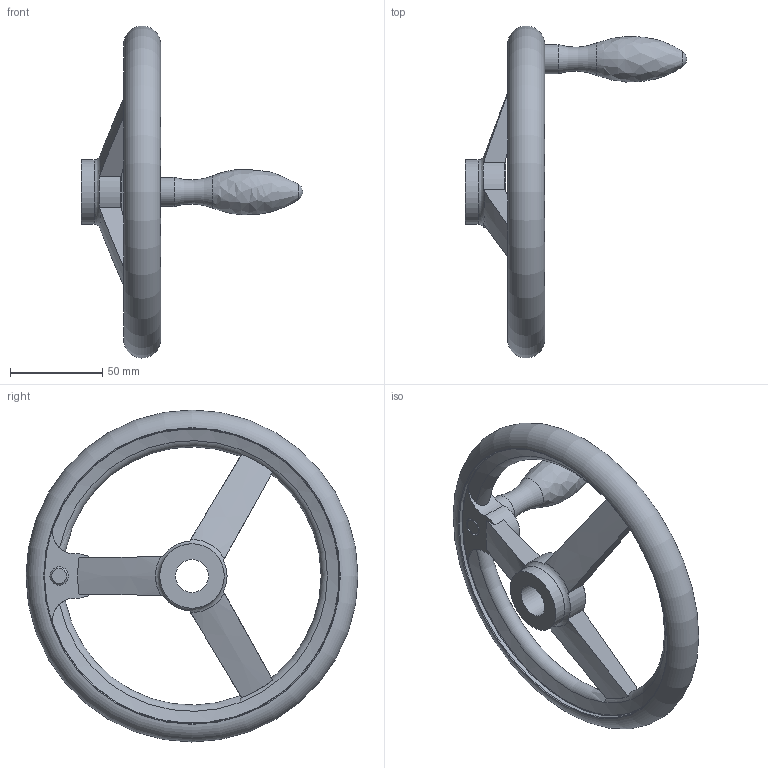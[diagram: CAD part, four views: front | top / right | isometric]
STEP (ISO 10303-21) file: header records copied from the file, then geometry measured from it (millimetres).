
FILE_DESCRIPTION( ( 'STEP AP203' ), '1' );
FILE_NAME( 'C:/Temp/Ganter_Step_05_03_2020/data/1_3/din_950/din_950_b/din_950_b_f/Handwheel DIN 950-GG-180-B18-F.stp', '2020-03-05T10:30:12', ( 'License CC BY-ND 4.0' ), ( 'CADENAS' ), ' ', 'PARTsolutions', ' ' );
FILE_SCHEMA( ( 'CONFIG_CONTROL_DESIGN' ) );
Length unit declared in the file: millimetre
Products named in the file (1): _Handwheel DIN 950-GG-180-B18-F
Bounding box: 120 x 179.98 x 179.98 mm (x, y, z)
Volume: 206083.4 mm3; surface area: 51255.3 mm2
Topology: 1 solids, 1 shells, 46 faces, 129 edges, 82 vertices
Faces by surface type: cylinder 13, torus 13, plane 11, cone 7, bspline 1, sphere 1
Full cylindrical faces by diameter (mm): 10 x1, 15.8 x1, 18 x1, 35 x2, 160 x2
Entity records: 1765 total; most frequent: CARTESIAN_POINT 673, ORIENTED_EDGE 208, DIRECTION 206, EDGE_CURVE 104, AXIS2_PLACEMENT_3D 97, VERTEX_POINT 78, EDGE_LOOP 70, FACE_OUTER_BOUND 62
